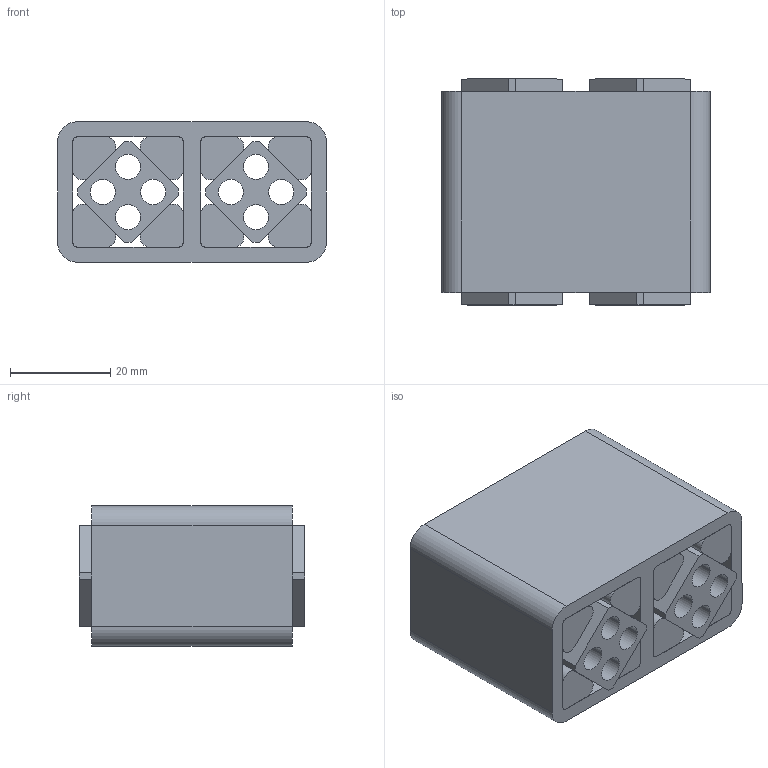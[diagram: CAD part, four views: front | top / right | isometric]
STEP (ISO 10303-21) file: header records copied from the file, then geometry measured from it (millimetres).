
FILE_DESCRIPTION((''),'2;1');
FILE_NAME('\\rostaofc\data\uw\save\daten_f\Normprogramm 3D\Gummifederelemente\DO-A15x40_01041002.stp','2004-09-28T07:04:40',('uw'),(''),'Autodesk Inventor 8','Autodesk Inventor 8','');
FILE_SCHEMA(('AUTOMOTIVE_DESIGN { 1 0 10303 214 1 1 1 1 }'));
Length unit declared in the file: millimetre
Products named in the file (4): DO-A 15x40; 4_4_3758-001; 4_4_3758-002; 4_4_3758-003
Assembly tree (11 placements, depth 2):
  DO-A 15x40
    4_4_3758-001
    4_4_3758-002  x2
    4_4_3758-003  x8
Bounding box: 53.5 x 45 x 28 mm (x, y, z)
Volume: 51304.6 mm3; surface area: 35660.7 mm2
Topology: 11 solids, 11 shells, 126 faces, 312 edges, 208 vertices
Faces by surface type: plane 74, cylinder 52
Entity records: 1819 total; most frequent: DIRECTION 318, CARTESIAN_POINT 297, ORIENTED_EDGE 276, EDGE_CURVE 138, AXIS2_PLACEMENT_3D 113, VERTEX_POINT 92, VECTOR 92, LINE 92
